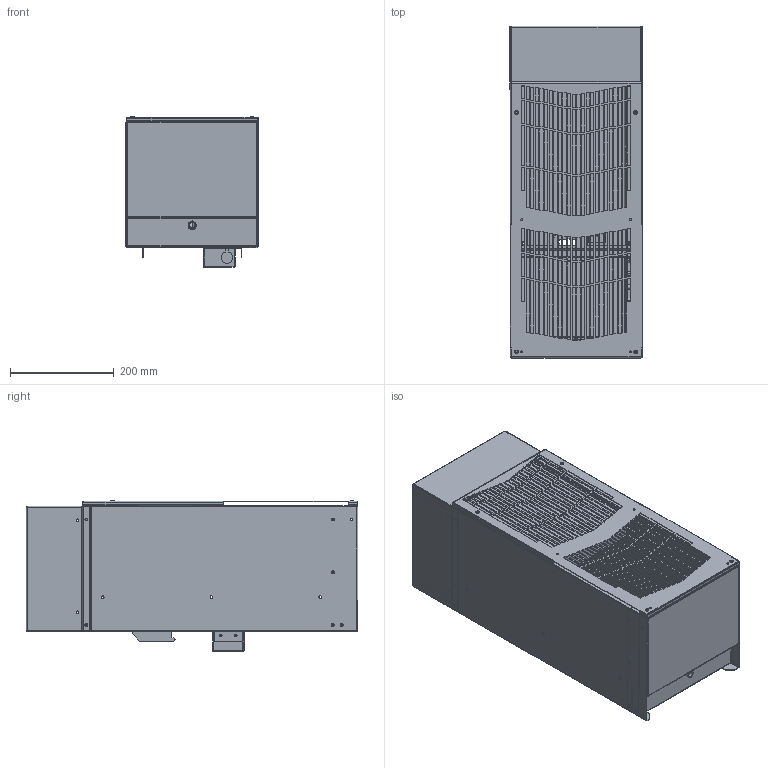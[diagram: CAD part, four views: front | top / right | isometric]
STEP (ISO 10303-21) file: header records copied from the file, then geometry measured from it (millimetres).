
FILE_DESCRIPTION (( 'STEP AP203' ), '1' );
FILE_NAME ('n210246g06x.STEP', '2017-06-14T17:52:36', ( '' ), ( '' ), 'SwSTEP 2.0', 'SolidWorks 2014', '' );
FILE_SCHEMA (( 'CONFIG_CONTROL_DESIGN' ));
Length unit declared in the file: inch
Products named in the file (24): 89112103; 89119932; 99407770_99407770; 89109504; n210246g06x; 89141264; 10-1044-12; 89105056; 89109505; 89112102; 89087520; 89112099; 89095669_89095669; 89112106; H60632004EB; 10-1015-208_PEM CLSS-024-1 ---N; 89112105; 89112098; 89112101; 89050853; 89135517; 89112104; 89135056; 89141265
Assembly tree (35 placements, depth 3):
  n210246g06x
    89112101
      89112102
      89095669_89095669
      10-1015-208_PEM CLSS-024-1 ---N  x3
    89112103
      89112104
      89095669_89095669
      10-1015-208_PEM CLSS-024-1 ---N  x3
    89109505
      89109504
      10-1044-12
    89112098
      89112099
      H60632004EB  x4
    89135517
    89141264
      89141265
      99407770_99407770  x2
    89105056
    89087520
    89112105
      89112106
      89095669_89095669  x2
    89050853
    89135056
    89119932
Bounding box: 255.35 x 638.81 x 290.53 mm (x, y, z)
Volume: 4124087.2 mm3; surface area: 2184114.7 mm2
Topology: 33 solids, 33 shells, 3851 faces, 10391 edges, 6660 vertices
Faces by surface type: plane 2310, cylinder 1145, torus 184, cone 176, bspline 36
Entity records: 103344 total; most frequent: CARTESIAN_POINT 18852, DIRECTION 17062, ORIENTED_EDGE 16838, EDGE_CURVE 8419, VECTOR 5724, LINE 5724, AXIS2_PLACEMENT_3D 5669, VERTEX_POINT 5379
